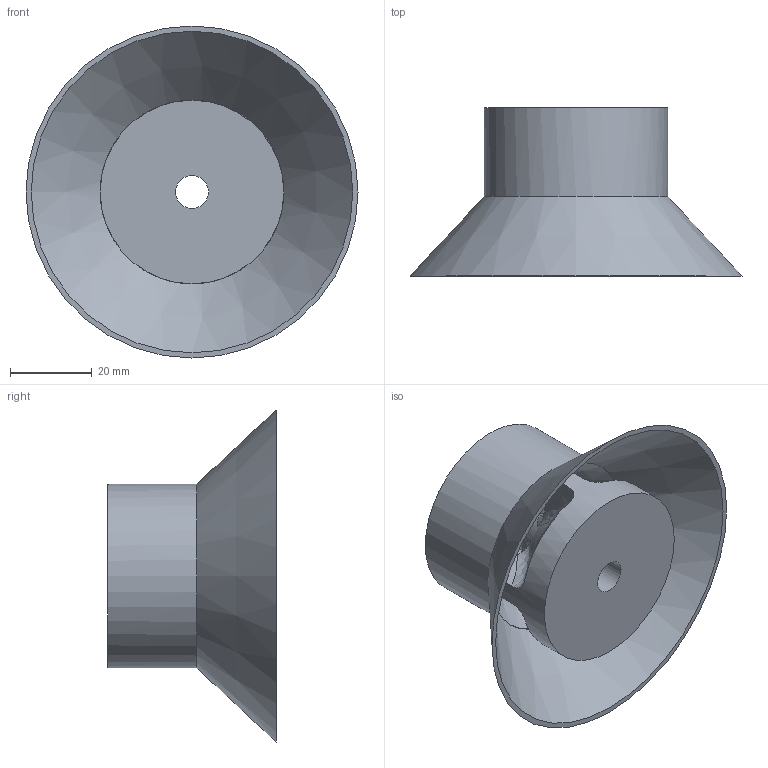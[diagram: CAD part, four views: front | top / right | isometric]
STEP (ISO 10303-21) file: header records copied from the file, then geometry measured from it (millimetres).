
FILE_DESCRIPTION(/* description */ (''),/* implementation_level */ '2;1');
FILE_NAME(/* name */ 'C:/Users/Owner/Desktop/KCAD 3Dp Fuel Filter Baffles Gen1/STEP Versions/1.77DIAx1.624 High Baffles STEP/1.77 Dia 32 CAL Baffle STEP.step',/* time_stamp */ '2019-05-22T19:24:54-04:00',/* author */ (''),/* organization */ (''),/* preprocessor_version */ 'ST-DEVELOPER v18',/* originating_system */ 'Autodesk Translation Framework v8.2.0.1029',/* authorisation */ '');
FILE_SCHEMA (('AUTOMOTIVE_DESIGN { 1 0 10303 214 3 1 1 }'));
Length unit declared in the file: inch
Products named in the file (1): 1.77 dia 1.624 high 32  cal
Bounding box: 81.28 x 41.25 x 81.28 mm (x, y, z)
Volume: 51222.6 mm3; surface area: 23568.4 mm2
Topology: 1 solids, 1 shells, 40 faces, 145 edges, 100 vertices
Faces by surface type: plane 15, bspline 13, cylinder 8, cone 2, torus 2
Full cylindrical faces by diameter (mm): 8.128 x2, 44.958 x2
Entity records: 2497 total; most frequent: CARTESIAN_POINT 1370, ORIENTED_EDGE 290, DIRECTION 158, EDGE_CURVE 145, VERTEX_POINT 100, B_SPLINE_CURVE_WITH_KNOTS 70, AXIS2_PLACEMENT_3D 64, EDGE_LOOP 43
